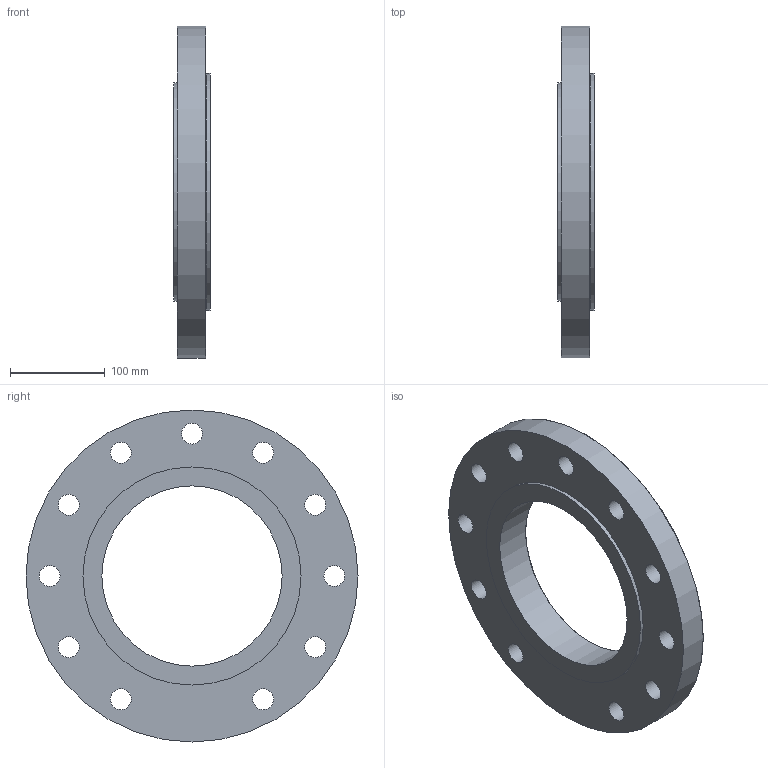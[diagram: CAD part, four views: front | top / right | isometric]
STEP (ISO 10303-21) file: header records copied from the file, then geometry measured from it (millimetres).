
FILE_DESCRIPTION((''),'2;1');
FILE_NAME('D:\PAWEŁ\ZLECENIA\2011 DualSystem\001 Modele\DKAB120_\DK_120_STEP\AZ_120.stp','2012-05-21T08:05:48',('admin'),(''),'Autodesk Inventor 2009','Autodesk Inventor 2009','');
FILE_SCHEMA(('AUTOMOTIVE_DESIGN { 1 0 10303 214 1 1 1 1 }'));
Length unit declared in the file: millimetre
Products named in the file (1): AZ_120
Bounding box: 39 x 350 x 350 mm (x, y, z)
Volume: 2066823.8 mm3; surface area: 212538.2 mm2
Topology: 1 solids, 1 shells, 23 faces, 53 edges, 34 vertices
Faces by surface type: bspline 12, cylinder 4, plane 4, torus 3
Full cylindrical faces by diameter (mm): 190 x1, 230 x1, 250 x1, 350 x1
Entity records: 831 total; most frequent: CARTESIAN_POINT 323, DIRECTION 92, ORIENTED_EDGE 68, EDGE_LOOP 68, AXIS2_PLACEMENT_3D 46, FACE_BOUND 45, VERTEX_POINT 34, CIRCLE 34
